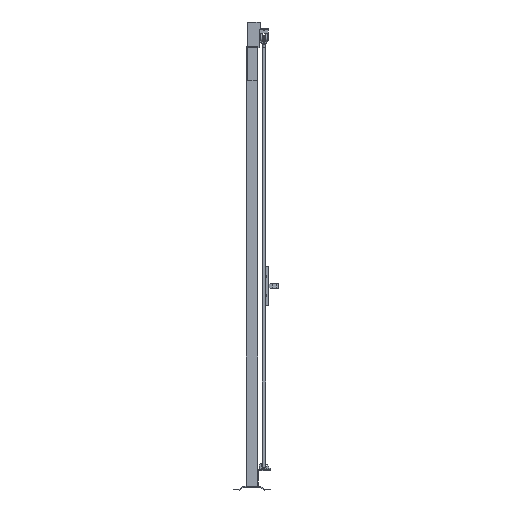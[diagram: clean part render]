
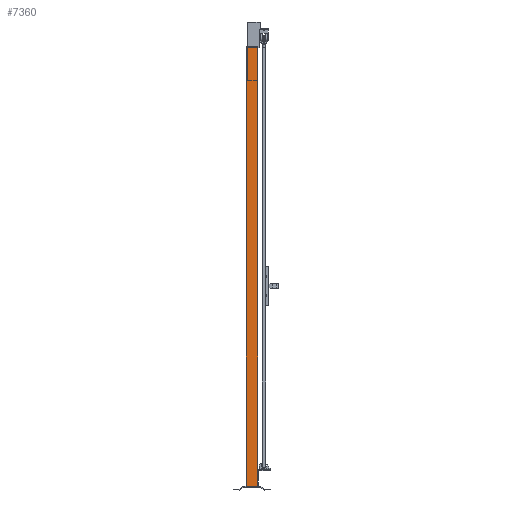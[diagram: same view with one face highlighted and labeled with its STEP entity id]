
A CAD part, left-side view. The second image highlights one B-rep face of the part: STEP entity #7360.
In plain terms, the highlighted planar face has unit normal (-1, 0, 0).
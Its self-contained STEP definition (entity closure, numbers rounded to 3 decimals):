
#590=FACE_OUTER_BOUND('',#1112,.T.);
#1112=EDGE_LOOP('',(#4351,#4352,#4353,#4354));
#1677=VERTEX_POINT('',#14651);
#1678=VERTEX_POINT('',#14653);
#1681=VERTEX_POINT('',#14660);
#1682=VERTEX_POINT('',#14662);
#2769=EDGE_CURVE('',#1677,#1678,#8303,.T.);
#2773=EDGE_CURVE('',#1681,#1682,#8307,.T.);
#2775=EDGE_CURVE('',#1678,#1681,#8309,.T.);
#2777=EDGE_CURVE('',#1677,#1682,#8311,.T.);
#4351=ORIENTED_EDGE('',*,*,#2777,.T.);
#4352=ORIENTED_EDGE('',*,*,#2773,.F.);
#4353=ORIENTED_EDGE('',*,*,#2775,.F.);
#4354=ORIENTED_EDGE('',*,*,#2769,.F.);
#6886=PLANE('',#10775);
#7360=ADVANCED_FACE('',(#590),#6886,.F.);
#8303=LINE('',#14654,#9591);
#8307=LINE('',#14663,#9595);
#8309=LINE('',#14666,#9597);
#8311=LINE('',#14669,#9599);
#9591=VECTOR('',#11732,1.);
#9595=VECTOR('',#11738,1.);
#9597=VECTOR('',#11742,1.);
#9599=VECTOR('',#11746,1.);
#10775=AXIS2_PLACEMENT_3D('',#14668,#11744,#11745);
#11732=DIRECTION('',(0.,-1.,0.));
#11738=DIRECTION('',(0.,1.,0.));
#11742=DIRECTION('',(0.,0.,-1.));
#11744=DIRECTION('center_axis',(1.,0.,0.));
#11745=DIRECTION('ref_axis',(0.,0.,-1.));
#11746=DIRECTION('',(0.,0.,-1.));
#14651=CARTESIAN_POINT('',(-30.,30.,2320.));
#14653=CARTESIAN_POINT('',(-30.,-30.,2320.));
#14654=CARTESIAN_POINT('',(-30.,0.,2320.));
#14660=CARTESIAN_POINT('',(-30.,-30.,20.));
#14662=CARTESIAN_POINT('',(-30.,30.,20.));
#14663=CARTESIAN_POINT('',(-30.,0.,20.));
#14666=CARTESIAN_POINT('',(-30.,-30.,1170.));
#14668=CARTESIAN_POINT('Origin',(-30.,0.,
1170.));
#14669=CARTESIAN_POINT('',(-30.,30.,1170.));
